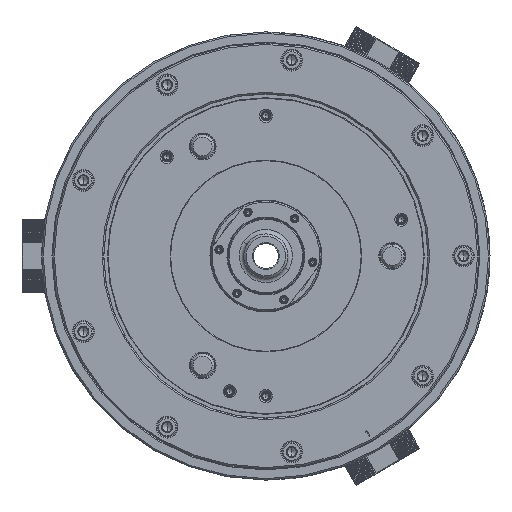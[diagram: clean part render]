
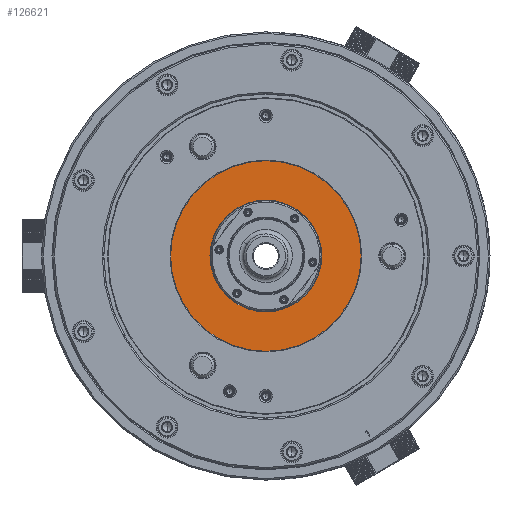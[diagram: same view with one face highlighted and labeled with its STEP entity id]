
A CAD part, left-side view. The second image highlights one B-rep face of the part: STEP entity #126621.
In plain terms, the highlighted planar face has unit normal (-1, 0, 0) as drawn and (0, 0, -1) by its records, which use the part's own axes.
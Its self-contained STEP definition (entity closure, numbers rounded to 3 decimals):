
#2390 = EDGE_LOOP ( 'NONE', ( #93379, #106997 ) ) ;
#3153 = CARTESIAN_POINT ( 'NONE',  ( 0., 0., -126.8 ) ) ;
#10048 = VERTEX_POINT ( 'NONE', #148638 ) ;
#15806 = ORIENTED_EDGE ( 'NONE', *, *, #114109, .F. ) ;
#26746 = ORIENTED_EDGE ( 'NONE', *, *, #72088, .F. ) ;
#41307 = CIRCLE ( 'NONE', #113979, 64.616 ) ;
#52138 = CIRCLE ( 'NONE', #127942, 37.9 ) ;
#53865 = CARTESIAN_POINT ( 'NONE',  ( 0., 0., -126.8 ) ) ;
#54169 = AXIS2_PLACEMENT_3D ( 'NONE', #53865, #108905, #156246 ) ;
#72088 = EDGE_CURVE ( 'NONE', #91238, #10048, #41307, .T. ) ;
#77252 = PLANE ( 'NONE',  #154524 ) ;
#91238 = VERTEX_POINT ( 'NONE', #123201 ) ;
#91452 = FACE_BOUND ( 'NONE', #2390, .T. ) ;
#93379 = ORIENTED_EDGE ( 'NONE', *, *, #148275, .T. ) ;
#100118 = CARTESIAN_POINT ( 'NONE',  ( -37.9, 0., -126.8 ) ) ;
#101748 = VERTEX_POINT ( 'NONE', #117595 ) ;
#103023 = CARTESIAN_POINT ( 'NONE',  ( 0., 0., -126.8 ) ) ;
#106440 = DIRECTION ( 'NONE',  ( 0., 0., 1. ) ) ;
#106997 = ORIENTED_EDGE ( 'NONE', *, *, #147210, .T. ) ;
#108905 = DIRECTION ( 'NONE',  ( 0., 0., 1. ) ) ;
#113979 = AXIS2_PLACEMENT_3D ( 'NONE', #103023, #115385, #158078 ) ;
#114109 = EDGE_CURVE ( 'NONE', #10048, #91238, #181275, .T. ) ;
#115385 = DIRECTION ( 'NONE',  ( 0., 0., 1. ) ) ;
#117595 = CARTESIAN_POINT ( 'NONE',  ( 37.9, 0., -126.8 ) ) ;
#118026 = DIRECTION ( 'NONE',  ( -1., 0., 0. ) ) ;
#118793 = CARTESIAN_POINT ( 'NONE',  ( 0., 0., -126.8 ) ) ;
#120832 = FACE_OUTER_BOUND ( 'NONE', #166163, .T. ) ;
#123201 = CARTESIAN_POINT ( 'NONE',  ( -64.616, 0., -126.8 ) ) ;
#126621 = ADVANCED_FACE ( 'NONE', ( #91452, #120832 ), #77252, .T. ) ;
#127942 = AXIS2_PLACEMENT_3D ( 'NONE', #118793, #176620, #134873 ) ;
#131176 = CIRCLE ( 'NONE', #149309, 37.9 ) ;
#133971 = DIRECTION ( 'NONE',  ( 1., 0., 0. ) ) ;
#134873 = DIRECTION ( 'NONE',  ( 1., 0., 0. ) ) ;
#147210 = EDGE_CURVE ( 'NONE', #101748, #147669, #52138, .T. ) ;
#147669 = VERTEX_POINT ( 'NONE', #100118 ) ;
#148275 = EDGE_CURVE ( 'NONE', #147669, #101748, #131176, .T. ) ;
#148638 = CARTESIAN_POINT ( 'NONE',  ( 64.616, 0., -126.8 ) ) ;
#149277 = DIRECTION ( 'NONE',  ( 0., 0., -1. ) ) ;
#149309 = AXIS2_PLACEMENT_3D ( 'NONE', #3153, #106440, #133971 ) ;
#154524 = AXIS2_PLACEMENT_3D ( 'NONE', #179595, #149277, #118026 ) ;
#156246 = DIRECTION ( 'NONE',  ( 1., 0., 0. ) ) ;
#158078 = DIRECTION ( 'NONE',  ( 1., 0., 0. ) ) ;
#166163 = EDGE_LOOP ( 'NONE', ( #26746, #15806 ) ) ;
#176620 = DIRECTION ( 'NONE',  ( 0., 0., 1. ) ) ;
#179595 = CARTESIAN_POINT ( 'NONE',  ( 0., -64.616, -126.8 ) ) ;
#181275 = CIRCLE ( 'NONE', #54169, 64.616 ) ;
